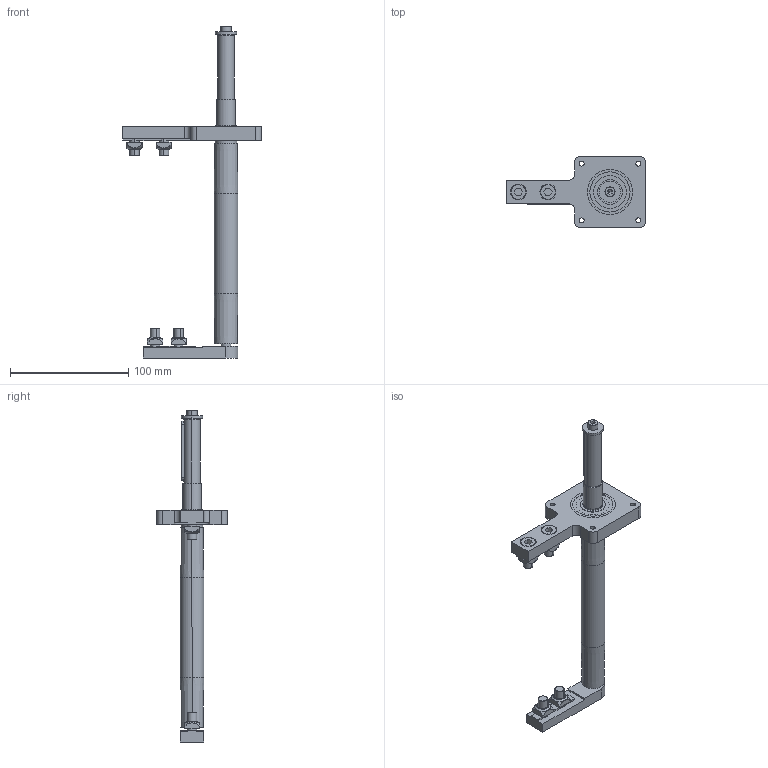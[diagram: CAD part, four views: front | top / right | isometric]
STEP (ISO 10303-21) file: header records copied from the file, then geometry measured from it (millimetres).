
FILE_DESCRIPTION (( 'STEP AP214' ), '1' );
FILE_NAME ('084.020.KD.30.150.STEP', '2021-02-05T13:45:34', ( '' ), ( '' ), 'SwSTEP 2.0', 'SolidWorks 2018', '' );
FILE_SCHEMA (( 'AUTOMOTIVE_DESIGN' ));
Length unit declared in the file: millimetre
Products named in the file (14): 084.800.007; 084.802.016_084.802.016; 084.800.012; Washer ISO 7094 - 5_Washer ISO 7094 - 5; 084.301.000 VITI ALUSIC_084.301.003; 084.020.KD.30.150; Circlip DIN 471 - 8 x 0.8_Circlip DIN 471 - 8 x 0.8; 084.800.002; 084.800.032; 084.800.001-1; CHIAVETTE_A 5x5x50 UNI 6604-69; 084.302.000 DADI ALUSIC 13x13-1_084.302.004; 084.800.008; ISO 4762 M5 x 16 --- 16S_ISO 4762 M5 x 16 --- 16S
Assembly tree (20 placements, depth 2):
  084.020.KD.30.150
    084.800.032
    084.800.001-1
    084.802.016_084.802.016
    084.301.000 VITI ALUSIC_084.301.003  x4
    084.302.000 DADI ALUSIC 13x13-1_084.302.004  x4
    084.800.012  x2
    084.800.008
    084.800.002
    084.800.007
    Washer ISO 7094 - 5_Washer ISO 7094 - 5
    ISO 4762 M5 x 16 --- 16S_ISO 4762 M5 x 16 --- 16S
    CHIAVETTE_A 5x5x50 UNI 6604-69
    Circlip DIN 471 - 8 x 0.8_Circlip DIN 471 - 8 x 0.8
Bounding box: 117.5 x 60 x 280.9 mm (x, y, z)
Volume: 134959.1 mm3; surface area: 59672.9 mm2
Topology: 21 solids, 22 shells, 600 faces, 1455 edges, 920 vertices
Faces by surface type: cylinder 209, plane 187, cone 106, torus 78, bspline 16, sphere 4
Entity records: 14277 total; most frequent: CARTESIAN_POINT 2672, DIRECTION 2508, ORIENTED_EDGE 2132, EDGE_CURVE 1066, AXIS2_PLACEMENT_3D 1019, VERTEX_POINT 677, CIRCLE 560, EDGE_LOOP 493
